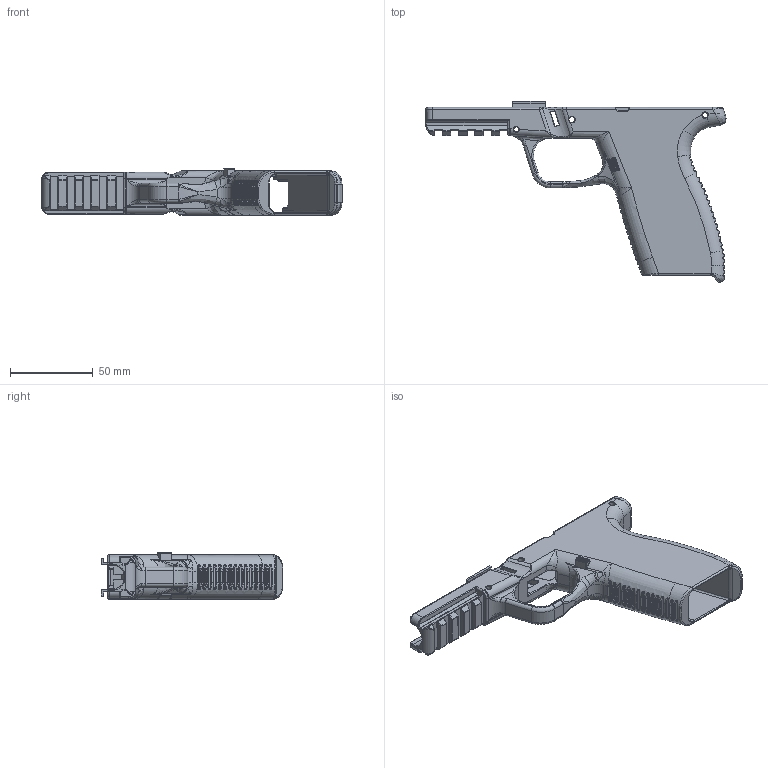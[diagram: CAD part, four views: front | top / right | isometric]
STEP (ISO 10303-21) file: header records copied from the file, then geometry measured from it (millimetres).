
FILE_DESCRIPTION(/* description */ (''),/* implementation_level */ '2;1');
FILE_NAME(/* name */ '/Users/tyler/Desktop/9mm-SD9_Glock_Edition_Pistol_Frame_and_DIY_Rail_System-FreeMenDontAsk/STEP/SD9 Glock Edition.step',/* time_stamp */ '2019-10-25T18:21:38-04:00',/* author */ (''),/* organization */ (''),/* preprocessor_version */ 'ST-DEVELOPER v18',/* originating_system */ 'Autodesk Translation Framework v8.6.0.1094',/* authorisation */ '');
FILE_SCHEMA (('AUTOMOTIVE_DESIGN { 1 0 10303 214 3 1 1 }'));
Products named in the file (3): SD9VE Glock Edition; Rail; Mag Catch v2
Assembly tree (2 placements, depth 2):
  SD9VE Glock Edition
    Rail
    Mag Catch v2
Bounding box: 181.88 x 109.95 x 28.37 mm (x, y, z)
Volume: 84888.5 mm3; surface area: 48884.9 mm2
Topology: 3 solids, 3 shells, 1949 faces, 4653 edges, 2609 vertices
Faces by surface type: cylinder 697, bspline 686, plane 317, torus 187, sphere 44, cone 18
Full cylindrical faces by diameter (mm): 3.175 x3, 3.3 x2, 3.6 x2
Entity records: 76317 total; most frequent: CARTESIAN_POINT 34774, ORIENTED_EDGE 9134, DIRECTION 8045, EDGE_CURVE 4567, AXIS2_PLACEMENT_3D 3269, VERTEX_POINT 2607, EDGE_LOOP 1958, FACE_OUTER_BOUND 1948
